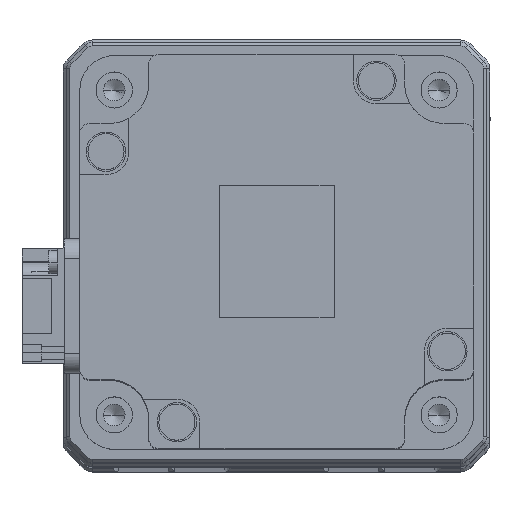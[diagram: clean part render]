
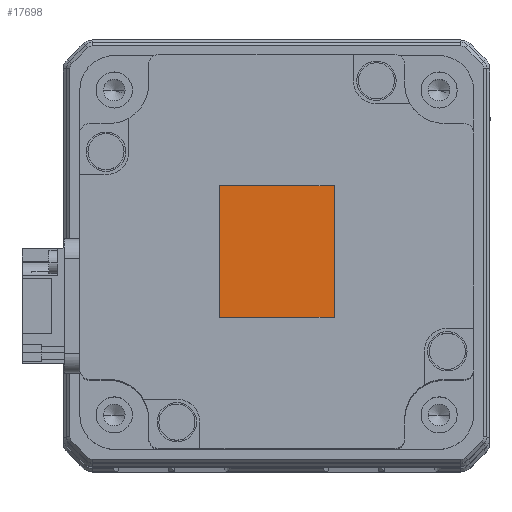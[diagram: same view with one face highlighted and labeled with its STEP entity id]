
A CAD part, top view. The second image highlights one B-rep face of the part: STEP entity #17698.
In plain terms, the highlighted planar face has unit normal (0, 0, 1) as drawn and (0, 0, -1) by its records, which use the part's own axes.
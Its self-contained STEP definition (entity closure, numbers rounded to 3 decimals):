
#2617 = DIRECTION ( 'NONE',  ( -1., 0., 0. ) ) ;
#3064 = LINE ( 'NONE', #21383, #22912 ) ;
#4136 = EDGE_LOOP ( 'NONE', ( #13223, #20117, #16394, #10319 ) ) ;
#4820 = LINE ( 'NONE', #10386, #24667 ) ;
#5141 = LINE ( 'NONE', #17330, #18071 ) ;
#6352 = CARTESIAN_POINT ( 'NONE',  ( -10., 8.75, -98.6 ) ) ;
#9617 = CARTESIAN_POINT ( 'NONE',  ( 10., -8.75, -98.6 ) ) ;
#10274 = FACE_OUTER_BOUND ( 'NONE', #4136, .T. ) ;
#10319 = ORIENTED_EDGE ( 'NONE', *, *, #14655, .T. ) ;
#10386 = CARTESIAN_POINT ( 'NONE',  ( 10., -8.75, -98.6 ) ) ;
#10645 = CARTESIAN_POINT ( 'NONE',  ( 10., -8.75, -98.6 ) ) ;
#13223 = ORIENTED_EDGE ( 'NONE', *, *, #18865, .T. ) ;
#13359 = DIRECTION ( 'NONE',  ( 0., 0., -1. ) ) ;
#13477 = VERTEX_POINT ( 'NONE', #31201 ) ;
#13550 = CARTESIAN_POINT ( 'NONE',  ( 10., 8.75, -98.6 ) ) ;
#14224 = VERTEX_POINT ( 'NONE', #26168 ) ;
#14655 = EDGE_CURVE ( 'NONE', #30106, #14224, #4820, .T. ) ;
#15645 = EDGE_CURVE ( 'NONE', #22913, #13477, #5141, .T. ) ;
#15873 = LINE ( 'NONE', #13550, #21993 ) ;
#16394 = ORIENTED_EDGE ( 'NONE', *, *, #32006, .T. ) ;
#17330 = CARTESIAN_POINT ( 'NONE',  ( 10., 8.75, -98.6 ) ) ;
#17698 = ADVANCED_FACE ( 'NONE', ( #10274 ), #28900, .T. ) ;
#18071 = VECTOR ( 'NONE', #27787, 1000. ) ;
#18865 = EDGE_CURVE ( 'NONE', #14224, #22913, #3064, .T. ) ;
#20117 = ORIENTED_EDGE ( 'NONE', *, *, #15645, .T. ) ;
#21383 = CARTESIAN_POINT ( 'NONE',  ( -10., 8.75, -98.6 ) ) ;
#21993 = VECTOR ( 'NONE', #24015, 1000. ) ;
#22912 = VECTOR ( 'NONE', #26591, 1000. ) ;
#22913 = VERTEX_POINT ( 'NONE', #6352 ) ;
#24015 = DIRECTION ( 'NONE',  ( 0., -1., 0. ) ) ;
#24667 = VECTOR ( 'NONE', #2617, 1000. ) ;
#26168 = CARTESIAN_POINT ( 'NONE',  ( -10., -8.75, -98.6 ) ) ;
#26591 = DIRECTION ( 'NONE',  ( 0., 1., 0. ) ) ;
#27492 = AXIS2_PLACEMENT_3D ( 'NONE', #10645, #13359, #31512 ) ;
#27787 = DIRECTION ( 'NONE',  ( 1., 0., 0. ) ) ;
#28900 = PLANE ( 'NONE',  #27492 ) ;
#30106 = VERTEX_POINT ( 'NONE', #9617 ) ;
#31201 = CARTESIAN_POINT ( 'NONE',  ( 10., 8.75, -98.6 ) ) ;
#31512 = DIRECTION ( 'NONE',  ( -1., 0., 0. ) ) ;
#32006 = EDGE_CURVE ( 'NONE', #13477, #30106, #15873, .T. ) ;
